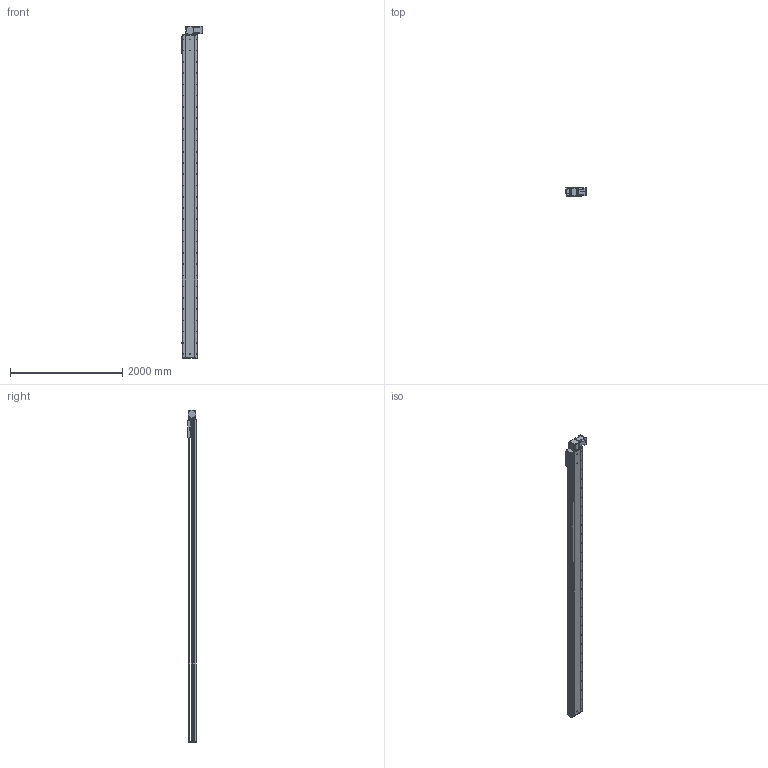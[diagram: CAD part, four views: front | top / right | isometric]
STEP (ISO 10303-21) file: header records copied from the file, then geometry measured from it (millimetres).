
FILE_DESCRIPTION (( 'STEP AP214' ), '1' );
FILE_NAME ('RTB28S-XX-5300-BL-M100-XX-C4.STEP', '2025-12-22T02:54:34', ( '' ), ( '' ), 'SwSTEP 2.0', 'SolidWorks 2018', '' );
FILE_SCHEMA (( 'AUTOMOTIVE_DESIGN' ));
Length unit declared in the file: millimetre
Products named in the file (4): RTB28S-GY-008^RTB28S-XX-XX-BL-M100-XX-C4; RTB28S-GY-004^RTB28S-XX-XX-BL-M100-XX-C4; RTB28S-XX-5300-BL-M100-XX-C4; RTB28S-GY-011^RTB28S-XX-XX-BL-M100-XX-C4
Assembly tree (3 placements, depth 2):
  RTB28S-XX-5300-BL-M100-XX-C4
    RTB28S-GY-011^RTB28S-XX-XX-BL-M100-XX-C4
    RTB28S-GY-004^RTB28S-XX-XX-BL-M100-XX-C4
    RTB28S-GY-008^RTB28S-XX-XX-BL-M100-XX-C4
Bounding box: 380.7 x 145 x 5907 mm (x, y, z)
Volume: 97337456.4 mm3; surface area: 8970656.3 mm2
Topology: 3 solids, 4 shells, 998 faces, 2718 edges, 1748 vertices
Faces by surface type: cylinder 527, plane 387, cone 80, torus 4
Entity records: 39719 total; most frequent: CARTESIAN_POINT 8152, DIRECTION 5808, ORIENTED_EDGE 5372, EDGE_CURVE 2686, AXIS2_PLACEMENT_3D 2184, VERTEX_POINT 1748, LINE 1440, VECTOR 1440
